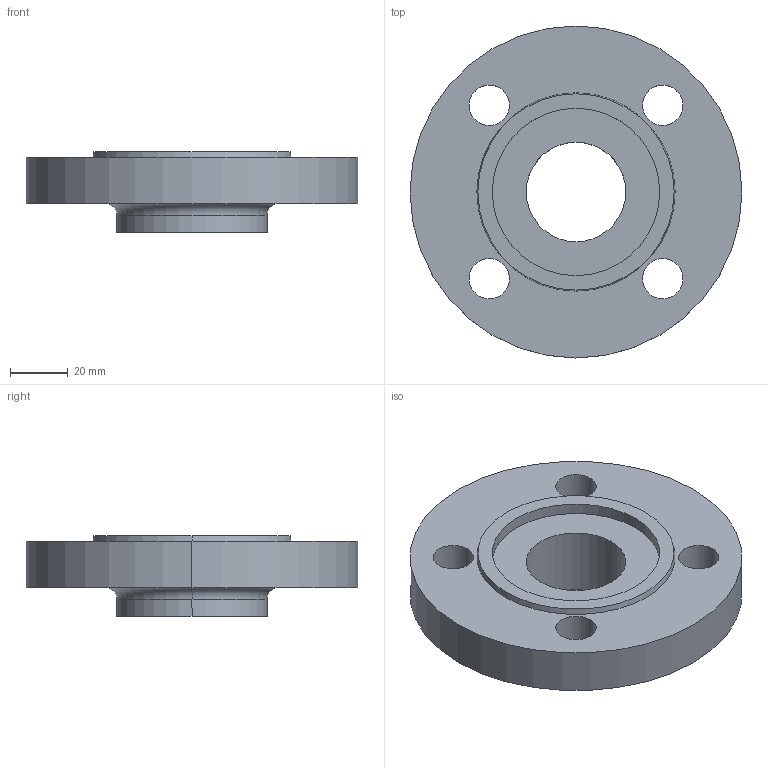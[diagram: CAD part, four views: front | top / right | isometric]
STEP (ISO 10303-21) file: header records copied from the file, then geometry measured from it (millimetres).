
FILE_DESCRIPTION (( 'STEP AP214' ), '1' );
FILE_NAME ('PN40 DN25 Type 12 - Type F Face.STEP', '2018-12-29T20:28:23', ( '' ), ( '' ), 'SwSTEP 2.0', 'SolidWorks 2019', '' );
FILE_SCHEMA (( 'AUTOMOTIVE_DESIGN' ));
Length unit declared in the file: millimetre
Products named in the file (1): PN40 DN25 Type 12 - Type F Face
Bounding box: 115 x 115 x 28 mm (x, y, z)
Volume: 152490.5 mm3; surface area: 31318.8 mm2
Topology: 1 solids, 1 shells, 25 faces, 58 edges, 38 vertices
Faces by surface type: cylinder 16, plane 5, torus 2, cone 2
Entity records: 790 total; most frequent: DIRECTION 150, CARTESIAN_POINT 122, ORIENTED_EDGE 116, AXIS2_PLACEMENT_3D 66, EDGE_CURVE 58, CIRCLE 40, EDGE_LOOP 38, VERTEX_POINT 38
